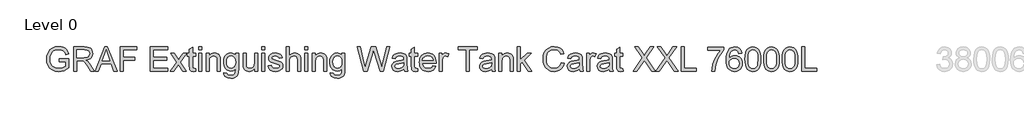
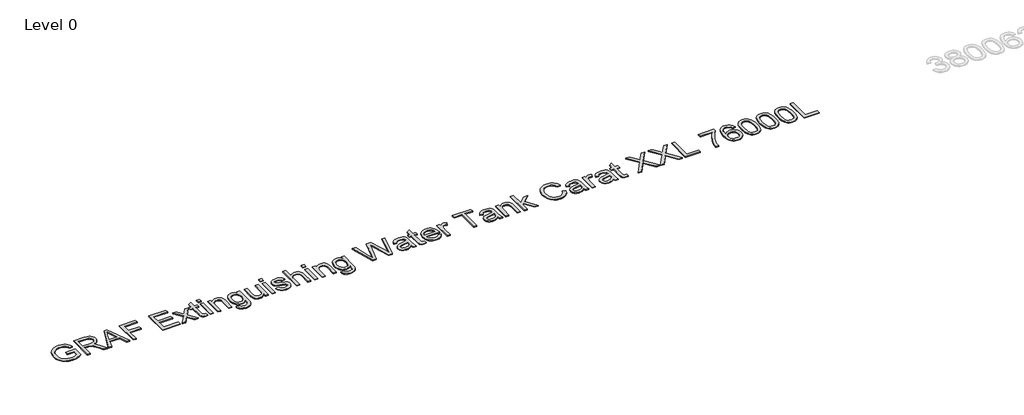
# One storey, part 32 of 37: 1 proxy.
"""IFC4 building model written with IfcOpenShell, lengths in millimetres."""

from ifc_helpers import new_model, si_unit, origin, origin_with_axes, place, context, project, spatial, polyline, outline, extrude, element, save

model = new_model("IFC4")

# Units and contexts
model_context = context("Model", 3, world=origin())
ifc_project = project(units=[si_unit("LENGTHUNIT", "METRE", prefix="MILLI")], contexts=[model_context])

# Site, building, storey
site = spatial("IfcSite", under=ifc_project)
building = spatial("IfcBuilding", under=site)
storey = spatial("IfcBuildingStorey", under=building, Name="Level 0", Elevation=0.0)

# Proxy
placement = place(None, origin())
element("IfcBuildingElementProxy", 1, Name="300mm Arial", ObjectType="300mm Arial", at=placement, inside=storey, context=model_context, shape_type="SweptSolid", body=[
    extrude(outline(polyline([(16759.0059613, -5583.2545597), (16759.0059613, -5545.5834434), (16881.4370893, -5545.5834434), (16881.4370893, -5658.2289103), (16851.6846329, -5678.9222726), (16820.9940775, -5693.7663111), (16789.4389993, -5702.7058436), (16757.0929749, -5705.6856877), (16714.8325307, -5700.949207), (16676.6371825, -5686.739765), (16644.9073605, -5663.5540022), (16622.0434945, -5631.8885595), (16608.2203285, -5593.9047435), (16603.6126065, -5551.7638609), (16608.2019344, -5509.3194757), (16621.9699181, -5469.8365406), (16644.3463404, -5436.717964), (16674.7609844, -5413.3666543), (16711.8067013, -5399.5158972), (16754.0763425, -5394.8989782), (16785.1071888, -5397.5753197), (16813.0110382, -5405.6043443), (16836.5095006, -5418.4066377), (16854.3241862, -5435.4027859), (16867.5035587, -5457.4113262), (16877.0960817, -5485.2507962), (16842.3680214, -5495.0364573), (16834.6149083, -5475.1800266), (16825.1879322, -5460.1980323), (16812.7167326, -5448.9040551), (16795.830949, -5440.1116754), (16775.6986068, -5434.4554897), (16753.4877313, -5432.5700945), (16727.4876713, -5434.6026425), (16705.2584018, -5440.7002866), (16686.8826961, -5450.0996716), (16672.4433278, -5462.0374423), (16653.0559467, -5491.0633317), (16644.2267788, -5519.50061), (16641.2837228, -5550.2187566), (16644.824587, -5586.2436009), (16655.4471796, -5615.8856927), (16672.8296039, -5638.9334997), (16696.6499631, -5655.1754898), (16724.5262213, -5664.804801), (16754.0763425, -5668.0145714), (16780.168373, -5665.5957473), (16805.6166101, -5658.3392749), (16827.7171209, -5648.3420817), (16843.765973, -5637.701095), (16843.765973, -5583.2545597), (16759.0059613, -5583.2545597)])), origin_with_axes(), (0.0, 0.0, 1.0), 10.0),
    extrude(outline(polyline([(16942.6526533, -5700.9767982), (16942.6526533, -5399.6078677), (17072.5149976, -5399.6078677), (17107.4178018, -5401.6404158), (17132.8108566, -5407.7380598), (17151.3705032, -5418.9952489), (17165.7730833, -5436.5064318), (17175.0161185, -5458.2206666), (17178.0971302, -5482.087011), (17172.9927675, -5511.7750881), (17157.6796794, -5536.3863935), (17146.0799003, -5546.4157764), (17131.6980135, -5554.4310054), (17094.5879173, -5564.4190016), (17115.9986494, -5580.532233), (17146.532855, -5619.3069952), (17196.7855355, -5700.9767982), (17153.0075781, -5700.9767982), (17113.7913574, -5638.5104354), (17085.4644438, -5597.1604991), (17065.5620278, -5577.6259652), (17047.6461747, -5570.4522663), (17025.7939842, -5569.1278911), (16980.3237696, -5569.1278911), (16980.3237696, -5700.9767982), (16942.6526533, -5700.9767982)]), holes=[polyline([(16980.3237696, -5531.4567748), (17064.6423229, -5531.4567748), (17088.8581552, -5530.1232026), (17107.6477281, -5526.1224859), (17121.7927908, -5519.1879103), (17132.0750926, -5509.0527613), (17138.3382835, -5496.7930938), (17140.4260139, -5483.4849626), (17136.4436913, -5465.109257), (17124.4967235, -5450.3020067), (17103.941317, -5440.5347397), (17074.1336783, -5437.278984), (16980.3237696, -5437.278984), (16980.3237696, -5531.4567748)])]), origin_with_axes(), (0.0, 0.0, 1.0), 10.0),
    extrude(outline(polyline([(17208.9256414, -5700.9767982), (17329.2230538, -5399.6078677), (17361.3023638, -5399.6078677), (17481.5997762, -5700.9767982), (17441.7949443, -5700.9767982), (17407.2876132, -5606.7990074), (17283.164228, -5606.7990074), (17248.7304732, -5700.9767982), (17208.9256414, -5700.9767982)]), holes=[polyline([(17296.996591, -5569.1278911), (17393.5288265, -5569.1278911), (17366.3791353, -5495.0364573), (17345.2627088, -5437.278984), (17326.500727, -5488.5617342), (17296.996591, -5569.1278911)])]), origin_with_axes(), (0.0, 0.0, 1.0), 10.0),
    extrude(outline(polyline([(17521.8460665, -5700.9767982), (17521.8460665, -5399.6078677), (17724.3283166, -5399.6078677), (17724.3283166, -5437.278984), (17559.5171828, -5437.278984), (17559.5171828, -5526.7478853), (17700.7838689, -5526.7478853), (17700.7838689, -5564.4190016), (17559.5171828, -5564.4190016), (17559.5171828, -5700.9767982), (17521.8460665, -5700.9767982)])), origin_with_axes(), (0.0, 0.0, 1.0), 10.0),
    extrude(outline(polyline([(17893.84834, -5700.9767982), (17893.84834, -5399.6078677), (18110.4572587, -5399.6078677), (18110.4572587, -5437.278984), (17931.5194563, -5437.278984), (17931.5194563, -5526.7478853), (18101.0394797, -5526.7478853), (18101.0394797, -5564.4190016), (17931.5194563, -5564.4190016), (17931.5194563, -5663.3056819), (18115.1661483, -5663.3056819), (18115.1661483, -5700.9767982), (17893.84834, -5700.9767982)])), origin_with_axes(), (0.0, 0.0, 1.0), 10.0),
    extrude(outline(polyline([(18143.4194855, -5700.9767982), (18223.9120661, -5589.7292828), (18148.1283751, -5479.6589899), (18193.4514369, -5479.6589899), (18230.0189072, -5532.6339972), (18247.0886318, -5557.6499729), (18261.877488, -5537.1957339), (18303.5217298, -5479.6589899), (18348.8447916, -5479.6589899), (18269.2351279, -5589.7292828), (18345.9017357, -5700.9767982), (18300.5786739, -5700.9767982), (18254.4462717, -5634.0958515), (18245.9849858, -5621.8821692), (18188.7425473, -5700.9767982), (18143.4194855, -5700.9767982)])), origin_with_axes(), (0.0, 0.0, 1.0), 10.0),
    extrude(outline(polyline([(18458.9150846, -5669.5596758), (18463.6239741, -5702.0804442), (18435.4442133, -5705.6856877), (18417.3628132, -5704.1221892), (18403.8799381, -5699.4316938), (18394.3517944, -5692.2028126), (18388.1345887, -5683.0241568), (18384.7132861, -5667.2604133), (18383.572852, -5640.276269), (18383.572852, -5517.3301062), (18355.3195147, -5517.3301062), (18355.3195147, -5479.6589899), (18383.572852, -5479.6589899), (18383.572852, -5425.8746422), (18421.2439683, -5403.7281461), (18421.2439683, -5479.6589899), (18458.9150846, -5479.6589899), (18458.9150846, -5517.3301062), (18421.2439683, -5517.3301062), (18421.2439683, -5639.172623), (18423.230531, -5658.5967923), (18429.668466, -5665.4761856), (18442.5075476, -5668.0145714), (18458.9150846, -5669.5596758)])), origin_with_axes(), (0.0, 0.0, 1.0), 10.0),
    extrude(outline(polyline([(18496.5862009, -5437.278984), (18496.5862009, -5399.6078677), (18534.2573172, -5399.6078677), (18534.2573172, -5437.278984), (18496.5862009, -5437.278984)])), origin_with_axes(), (0.0, 0.0, 1.0), 10.0),
    extrude(outline(polyline([(18496.5862009, -5700.9767982), (18496.5862009, -5479.6589899), (18534.2573172, -5479.6589899), (18534.2573172, -5700.9767982), (18496.5862009, -5700.9767982)])), origin_with_axes(), (0.0, 0.0, 1.0), 10.0),
    extrude(outline(polyline([(18590.7639916, -5700.9767982), (18590.7639916, -5479.6589899), (18628.435108, -5479.6589899), (18628.435108, -5510.5610775), (18641.5225099, -5494.981275), (18657.2402682, -5483.8528446), (18675.5883827, -5477.1757864), (18696.5668535, -5474.9501003), (18715.1356972, -5476.7435251), (18732.1410424, -5482.1237992), (18746.3228933, -5490.4195382), (18756.4212541, -5500.9593574), (18767.7152313, -5528.6608716), (18769.7017941, -5565.0811892), (18769.7017941, -5700.9767982), (18732.0306778, -5700.9767982), (18732.0306778, -5570.1579607), (18727.6896703, -5536.8278519), (18721.6839967, -5526.9042351), (18712.3489911, -5519.2063044), (18700.3836292, -5514.2674886), (18686.4868868, -5512.6212166), (18664.4231641, -5516.3184307), (18645.6151971, -5527.4100729), (18638.0989081, -5536.4645685), (18632.7301302, -5548.8391991), (18628.435108, -5583.5488653), (18628.435108, -5700.9767982), (18590.7639916, -5700.9767982)])), origin_with_axes(), (0.0, 0.0, 1.0), 10.0),
    extrude(outline(polyline([(18812.0817999, -5719.8123563), (18849.7529163, -5724.5212459), (18853.9099828, -5736.2934697), (18861.9665985, -5744.3868736), (18877.8039184, -5750.6776557), (18898.5340688, -5752.7745831), (18920.6437767, -5750.4017442), (18937.0881019, -5743.2832276), (18948.4924438, -5731.8788858), (18955.4822017, -5716.6485712), (18958.0573756, -5672.7234609), (18945.5217966, -5685.084296), (18931.5330838, -5693.9134639), (18916.091237, -5699.2109646), (18899.1962564, -5700.9767982), (18878.5419816, -5698.9212575), (18860.3571148, -5692.7546356), (18844.6416558, -5682.4769323), (18831.3956047, -5668.0881478), (18820.8856759, -5650.8252852), (18813.378584, -5631.9253477), (18808.8743288, -5611.3883353), (18807.3729104, -5589.214248), (18810.067646, -5558.7996041), (18818.1518529, -5530.8313754), (18831.3404224, -5507.1305779), (18849.3482461, -5489.5182274), (18871.5591215, -5478.5921321), (18897.3568464, -5474.9501003), (18914.9737955, -5477.0102395), (18930.9628667, -5483.190657), (18945.3240601, -5493.4913529), (18958.0573756, -5507.9123271), (18958.0573756, -5479.6589899), (18995.7284919, -5479.6589899), (18995.7284919, -5670.7368982), (18993.153318, -5714.8551464), (18985.4277961, -5743.908627), (18972.1196649, -5763.1764465), (18952.7966631, -5777.9377116), (18927.881855, -5787.3187024), (18897.7983048, -5790.4456994), (18862.7483477, -5786.0403125), (18835.148001, -5772.8241518), (18824.7530354, -5762.9028343), (18817.44368, -5750.7604292), (18813.2199349, -5736.3969365), (18812.0817999, -5719.8123563)]), holes=[polyline([(18845.0440267, -5586.6390741), (18849.0631375, -5621.1923905), (18861.1204699, -5644.9483703), (18879.2478552, -5658.716354), (18901.4771248, -5663.3056819), (18923.5408474, -5658.7439451), (18941.7602032, -5645.0587349), (18953.9830825, -5621.6062577), (18958.0573756, -5587.7427201), (18953.8635209, -5555.0839959), (18941.2819567, -5531.5671394), (18922.7958864, -5517.3576973), (18900.8885136, -5512.6212166), (18879.3766139, -5517.2841209), (18861.3411991, -5531.2728338), (18849.1183198, -5554.4402024), (18845.0440267, -5586.6390741)])]), origin_with_axes(), (0.0, 0.0, 1.0), 10.0),
    extrude(outline(polyline([(19193.5018525, -5700.9767982), (19193.5018525, -5662.9377999), (19179.8718246, -5681.6400008), (19163.9977165, -5694.9987158), (19145.8795283, -5703.0139447), (19125.5172598, -5705.6856877), (19107.1691453, -5703.8094895), (19090.0902237, -5698.180895), (19075.76122, -5689.7196091), (19065.6628592, -5679.3453369), (19054.4424584, -5651.6070344), (19052.2351664, -5616.5846685), (19052.2351664, -5479.6589899), (19089.9062827, -5479.6589899), (19089.9062827, -5598.8527563), (19092.1871511, -5637.2596366), (19097.6777899, -5650.0711271), (19107.0863719, -5659.8108029), (19119.7874978, -5665.9636293), (19135.1557681, -5668.0145714), (19151.4069552, -5665.917644), (19166.6096787, -5659.6268619), (19179.1452577, -5649.7216392), (19187.3950114, -5636.78139), (19191.9751423, -5619.0586749), (19193.5018525, -5594.8060544), (19193.5018525, -5479.6589899), (19231.1729689, -5479.6589899), (19231.1729689, -5700.9767982), (19193.5018525, -5700.9767982)])), origin_with_axes(), (0.0, 0.0, 1.0), 10.0),
    extrude(outline(polyline([(19282.9707538, -5437.278984), (19282.9707538, -5399.6078677), (19320.6418701, -5399.6078677), (19320.6418701, -5437.278984), (19282.9707538, -5437.278984)])), origin_with_axes(), (0.0, 0.0, 1.0), 10.0),
    extrude(outline(polyline([(19282.9707538, -5700.9767982), (19282.9707538, -5479.6589899), (19320.6418701, -5479.6589899), (19320.6418701, -5700.9767982), (19282.9707538, -5700.9767982)])), origin_with_axes(), (0.0, 0.0, 1.0), 10.0),
    extrude(outline(polyline([(19363.0218759, -5635.0523446), (19400.6929922, -5630.3434551), (19406.6342865, -5646.4566865), (19418.1305988, -5658.3024867), (19435.2555057, -5665.5865502), (19458.0825835, -5668.0145714), (19480.6337498, -5665.7888853), (19496.4894638, -5659.1118271), (19505.8704547, -5649.4365307), (19508.9974516, -5638.2161298), (19505.8520606, -5628.6144097), (19496.4158874, -5621.293558), (19457.6411251, -5610.5514038), (19400.9137214, -5592.1205158), (19386.5571266, -5582.8590866), (19376.1552632, -5570.5994191), (19369.8368899, -5556.1232626), (19367.7307655, -5540.2123663), (19369.4230226, -5525.6166481), (19374.4997942, -5512.1429701), (19382.5012276, -5500.324761), (19392.9674703, -5490.6954497), (19416.9165882, -5479.5486253), (19449.326992, -5474.9501003), (19473.846327, -5476.7987074), (19495.1650886, -5482.3445284), (19512.3083896, -5491.0449376), (19524.3013426, -5502.357309), (19532.2475937, -5517.118574), (19537.2507888, -5536.1656643), (19499.5796725, -5540.8745539), (19494.8247977, -5529.0195566), (19485.4162157, -5520.0892211), (19471.261956, -5514.4882178), (19452.270048, -5512.6212166), (19430.6385866, -5514.4054443), (19416.2176124, -5519.7581274), (19408.1058144, -5527.4836493), (19405.4018818, -5536.3863935), (19409.8900421, -5547.349277), (19423.9431343, -5555.6634101), (19456.3903263, -5563.6832376), (19511.6829902, -5581.4151497), (19526.2879054, -5589.8948297), (19537.3611534, -5601.5015067), (19544.3417143, -5616.2719688), (19546.6685679, -5634.2430043), (19543.9370441, -5652.821045), (19535.7424727, -5670.2954398), (19522.3975533, -5685.2958281), (19504.2149857, -5696.4518496), (19482.2524306, -5703.3772282), (19457.5675487, -5705.6856877), (19419.5837327, -5701.2343156), (19391.8638243, -5687.8801992), (19373.35936, -5665.7704912), (19363.0218759, -5635.0523446)])), origin_with_axes(), (0.0, 0.0, 1.0), 10.0),
    extrude(outline(polyline([(19589.0485738, -5700.9767982), (19589.0485738, -5399.6078677), (19626.7196901, -5399.6078677), (19626.7196901, -5510.4139247), (19640.5566516, -5494.8985015), (19656.0950674, -5483.8160564), (19673.3349374, -5477.1665894), (19692.2762616, -5474.9501003), (19715.029763, -5477.3689245), (19734.5826911, -5484.6253968), (19749.9785526, -5496.1493003), (19760.2608543, -5511.3704179), (19766.0549957, -5532.2845093), (19767.9863762, -5560.8873344), (19767.9863762, -5700.9767982), (19730.3152599, -5700.9767982), (19730.3152599, -5564.7868836), (19727.3170216, -5541.2056477), (19718.3223069, -5525.0556281), (19703.8277563, -5515.7298195), (19684.3300105, -5512.6212166), (19668.4099172, -5514.718144), (19653.4647111, -5521.0089261), (19641.085482, -5530.8865577), (19632.8633194, -5543.7440334), (19628.2555974, -5560.8321521), (19626.7196901, -5583.4017125), (19626.7196901, -5700.9767982), (19589.0485738, -5700.9767982)])), origin_with_axes(), (0.0, 0.0, 1.0), 10.0),
    extrude(outline(polyline([(19819.7841611, -5437.278984), (19819.7841611, -5399.6078677), (19857.4552774, -5399.6078677), (19857.4552774, -5437.278984), (19819.7841611, -5437.278984)])), origin_with_axes(), (0.0, 0.0, 1.0), 10.0),
    extrude(outline(polyline([(19819.7841611, -5700.9767982), (19819.7841611, -5479.6589899), (19857.4552774, -5479.6589899), (19857.4552774, -5700.9767982), (19819.7841611, -5700.9767982)])), origin_with_axes(), (0.0, 0.0, 1.0), 10.0),
    extrude(outline(polyline([(19913.9619519, -5700.9767982), (19913.9619519, -5479.6589899), (19951.6330682, -5479.6589899), (19951.6330682, -5510.5610775), (19964.7204702, -5494.981275), (19980.4382284, -5483.8528446), (19998.7863429, -5477.1757864), (20019.7648137, -5474.9501003), (20038.3336574, -5476.7435251), (20055.3390026, -5482.1237992), (20069.5208536, -5490.4195382), (20079.6192143, -5500.9593574), (20090.9131916, -5528.6608716), (20092.8997544, -5565.0811892), (20092.8997544, -5700.9767982), (20055.228638, -5700.9767982), (20055.228638, -5570.1579607), (20050.8876305, -5536.8278519), (20044.8819569, -5526.9042351), (20035.5469513, -5519.2063044), (20023.5815894, -5514.2674886), (20009.684847, -5512.6212166), (19987.6211244, -5516.3184307), (19968.8131574, -5527.4100729), (19961.2968684, -5536.4645685), (19955.9280905, -5548.8391991), (19951.6330682, -5583.5488653), (19951.6330682, -5700.9767982), (19913.9619519, -5700.9767982)])), origin_with_axes(), (0.0, 0.0, 1.0), 10.0),
    extrude(outline(polyline([(20135.2797602, -5719.8123563), (20172.9508765, -5724.5212459), (20177.1079431, -5736.2934697), (20185.1645587, -5744.3868736), (20201.0018786, -5750.6776557), (20221.7320291, -5752.7745831), (20243.841737, -5750.4017442), (20260.2860622, -5743.2832276), (20271.690404, -5731.8788858), (20278.6801619, -5716.6485712), (20281.2553359, -5672.7234609), (20268.7197569, -5685.084296), (20254.731044, -5693.9134639), (20239.2891973, -5699.2109646), (20222.3942167, -5700.9767982), (20201.7399419, -5698.9212575), (20183.555075, -5692.7546356), (20167.839616, -5682.4769323), (20154.5935649, -5668.0881478), (20144.0836362, -5650.8252852), (20136.5765442, -5631.9253477), (20132.0722891, -5611.3883353), (20130.5708707, -5589.214248), (20133.2656063, -5558.7996041), (20141.3498131, -5530.8313754), (20154.5383826, -5507.1305779), (20172.5462063, -5489.5182274), (20194.7570818, -5478.5921321), (20220.5548067, -5474.9501003), (20238.1717557, -5477.0102395), (20254.1608269, -5483.190657), (20268.5220203, -5493.4913529), (20281.2553359, -5507.9123271), (20281.2553359, -5479.6589899), (20318.9264522, -5479.6589899), (20318.9264522, -5670.7368982), (20316.3512782, -5714.8551464), (20308.6257563, -5743.908627), (20295.3176252, -5763.1764465), (20275.9946234, -5777.9377116), (20251.0798152, -5787.3187024), (20220.9962651, -5790.4456994), (20185.946308, -5786.0403125), (20158.3459613, -5772.8241518), (20147.9509957, -5762.9028343), (20140.6416403, -5750.7604292), (20136.4178951, -5736.3969365), (20135.2797602, -5719.8123563)]), holes=[polyline([(20168.241987, -5586.6390741), (20172.2610978, -5621.1923905), (20184.3184302, -5644.9483703), (20202.4458155, -5658.716354), (20224.675085, -5663.3056819), (20246.7388077, -5658.7439451), (20264.9581635, -5645.0587349), (20277.1810428, -5621.6062577), (20281.2553359, -5587.7427201), (20277.0614811, -5555.0839959), (20264.4799169, -5531.5671394), (20245.9938466, -5517.3576973), (20224.0864738, -5512.6212166), (20202.5745742, -5517.2841209), (20184.5391594, -5531.2728338), (20172.3162801, -5554.4402024), (20168.241987, -5586.6390741)])]), origin_with_axes(), (0.0, 0.0, 1.0), 10.0),
    extrude(outline(polyline([(20551.7957551, -5700.9767982), (20469.6109174, -5399.6078677), (20508.4592561, -5399.6078677), (20556.1367627, -5597.6755339), (20570.8520425, -5658.8175215), (20586.5973919, -5604.7388682), (20646.3414279, -5399.6078677), (20702.3330676, -5399.6078677), (20745.743143, -5548.3057702), (20764.3395779, -5603.4880695), (20778.0431822, -5658.8175215), (20792.3170036, -5599.4413675), (20840.4359686, -5399.6078677), (20879.2843072, -5399.6078677), (20797.0258931, -5700.9767982), (20756.7796029, -5700.9767982), (20684.527579, -5468.4753772), (20674.4476123, -5436.0281853), (20663.1168469, -5475.0972531), (20597.2659697, -5700.9767982), (20551.7957551, -5700.9767982)])), origin_with_axes(), (0.0, 0.0, 1.0), 10.0),
    extrude(outline(polyline([(21053.5132202, -5672.7234609), (21035.5145935, -5688.1561106), (21016.982538, -5698.2544714), (20997.4939893, -5703.8278836), (20976.6258832, -5705.6856877), (20945.1443814, -5701.2159215), (20921.9218305, -5687.8066228), (20907.6020238, -5667.4443543), (20902.8287549, -5642.115679), (20904.6313767, -5626.4990883), (20910.039242, -5612.3172373), (20918.3809663, -5600.1771315), (20928.9851648, -5590.685776), (20955.3623038, -5578.324941), (20987.9566486, -5572.6595583), (21026.4738935, -5566.6998699), (21053.292491, -5559.710112), (21053.5132202, -5551.3224025), (21050.9196521, -5534.5101954), (21043.1389479, -5523.5105237), (21025.7381295, -5515.3435434), (21001.494706, -5512.6212166), (20979.0539043, -5514.4330355), (20963.3821313, -5519.868492), (20952.6951594, -5529.9208675), (20945.2087608, -5545.5834434), (20907.5376445, -5540.8745539), (20914.0767469, -5520.2731621), (20923.8348169, -5504.0863544), (20937.7223622, -5491.7071252), (20956.6498908, -5482.5284694), (20979.7988654, -5476.8446926), (21006.3507484, -5474.9501003), (21031.8173795, -5476.6239634), (21052.004904, -5481.6455527), (21067.2260215, -5489.1963306), (21077.7934318, -5498.4577598), (21084.8015838, -5509.9080869), (21089.3449265, -5524.0255585), (21091.1843365, -5556.9877853), (21091.1843365, -5603.8559515), (21093.0973228, -5669.3021584), (21100.6021155, -5700.9767982), (21062.9309992, -5700.9767982), (21053.5132202, -5672.7234609)]), holes=[polyline([(21053.5132202, -5597.3812283), (20992.7391146, -5608.932723), (20960.3287108, -5615.0395641), (20945.6502192, -5624.972378), (20940.4998712, -5639.4669286), (20943.3049715, -5650.6689353), (20951.7202721, -5659.8475911), (20965.5618322, -5665.9728263), (20984.6457107, -5668.0145714), (21004.8792204, -5665.7612942), (21022.7582854, -5659.0014625), (21037.252836, -5649.0410575), (21047.3328026, -5637.1860602), (21051.8025689, -5624.972378), (21053.292491, -5608.0498062), (21053.5132202, -5597.3812283)])]), origin_with_axes(), (0.0, 0.0, 1.0), 10.0),
    extrude(outline(polyline([(21223.0332435, -5669.5596758), (21227.7421331, -5702.0804442), (21199.5623722, -5705.6856877), (21181.4809722, -5704.1221892), (21167.9980971, -5699.4316938), (21158.4699534, -5692.2028126), (21152.2527477, -5683.0241568), (21148.8314451, -5667.2604133), (21147.6910109, -5640.276269), (21147.6910109, -5517.3301062), (21119.4376737, -5517.3301062), (21119.4376737, -5479.6589899), (21147.6910109, -5479.6589899), (21147.6910109, -5425.8746422), (21185.3621272, -5403.7281461), (21185.3621272, -5479.6589899), (21223.0332435, -5479.6589899), (21223.0332435, -5517.3301062), (21185.3621272, -5517.3301062), (21185.3621272, -5639.172623), (21187.34869, -5658.5967923), (21193.7866249, -5665.4761856), (21206.6257066, -5668.0145714), (21223.0332435, -5669.5596758)])), origin_with_axes(), (0.0, 0.0, 1.0), 10.0),
    extrude(outline(polyline([(21415.6562562, -5635.0523446), (21452.5916085, -5639.7612342), (21439.2834774, -5667.5915071), (21418.0474892, -5688.3952339), (21389.3618906, -5701.3630743), (21353.7049282, -5705.6856877), (21330.330626, -5703.8209859), (21309.5039065, -5698.2268803), (21291.2247699, -5688.9033709), (21275.493216, -5675.8504579), (21262.8426739, -5659.4314246), (21253.8065724, -5640.0095545), (21248.3849115, -5617.5848477), (21246.5776912, -5592.157304), (21248.4033056, -5565.8675369), (21253.8801488, -5542.6955698), (21263.0082208, -5522.6414025), (21275.7875216, -5505.7050351), (21291.4776887, -5492.2497512), (21309.3383596, -5482.638834), (21329.3695342, -5476.8722838), (21351.5712127, -5474.9501003), (21373.0578204, -5476.8676852), (21392.4888876, -5482.6204399), (21409.8644141, -5492.2083644), (21425.1843999, -5505.6314587), (21437.6900885, -5522.5310379), (21446.6227232, -5542.548417), (21451.982304, -5565.6835959), (21453.7688309, -5591.9365748), (21453.5481017, -5602.0901179), (21284.2488075, -5602.0901179), (21290.7695159, -5630.2882728), (21305.9170571, -5651.0184232), (21327.7784446, -5663.7655344), (21354.4406922, -5668.0145714), (21374.490261, -5666.0464027), (21391.3760445, -5660.1418967), (21405.098043, -5649.9331713), (21415.6562562, -5635.0523446)]), holes=[polyline([(21284.2488075, -5564.4190016), (21416.0977146, -5564.4190016), (21411.002549, -5544.5165856), (21401.0145528, -5530.2795524), (21379.0519977, -5517.0358006), (21351.4240599, -5512.6212166), (21326.0310051, -5516.1436868), (21305.0341403, -5526.7110971), (21290.4384221, -5543.1830134), (21284.2488075, -5564.4190016)])]), origin_with_axes(), (0.0, 0.0, 1.0), 10.0),
    extrude(outline(polyline([(21491.4399472, -5700.9767982), (21491.4399472, -5479.6589899), (21524.402174, -5479.6589899), (21524.402174, -5512.4004875), (21536.579068, -5493.4177765), (21547.7994689, -5482.2341638), (21559.0566579, -5476.7711162), (21571.3439166, -5474.9501003), (21590.1058983, -5477.8563681), (21609.1621857, -5486.5751714), (21596.5806214, -5520.3467385), (21583.3368696, -5514.5525971), (21570.0931178, -5512.6212166), (21558.8451258, -5514.4790207), (21548.7927503, -5520.052433), (21540.6717552, -5528.918389), (21535.2179046, -5540.6538247), (21530.6377738, -5561.6966748), (21529.1110635, -5584.6525113), (21529.1110635, -5700.9767982), (21491.4399472, -5700.9767982)])), origin_with_axes(), (0.0, 0.0, 1.0), 10.0),
    extrude(outline(polyline([(21830.479994, -5700.9767982), (21830.479994, -5437.278984), (21731.5933137, -5437.278984), (21731.5933137, -5399.6078677), (21967.0377906, -5399.6078677), (21967.0377906, -5437.278984), (21868.1511103, -5437.278984), (21868.1511103, -5700.9767982), (21830.479994, -5700.9767982)])), origin_with_axes(), (0.0, 0.0, 1.0), 10.0),
    extrude(outline(polyline([(22145.975593, -5672.7234609), (22127.9769664, -5688.1561106), (22109.4449109, -5698.2544714), (22089.9563622, -5703.8278836), (22069.088256, -5705.6856877), (22037.6067543, -5701.2159215), (22014.3842034, -5687.8066228), (22000.0643967, -5667.4443543), (21995.2911278, -5642.115679), (21997.0937496, -5626.4990883), (22002.5016149, -5612.3172373), (22010.8433392, -5600.1771315), (22021.4475377, -5590.685776), (22047.8246767, -5578.324941), (22080.4190215, -5572.6595583), (22118.9362664, -5566.6998699), (22145.7548638, -5559.710112), (22145.975593, -5551.3224025), (22143.382025, -5534.5101954), (22135.6013208, -5523.5105237), (22118.2005024, -5515.3435434), (22093.9570789, -5512.6212166), (22071.5162772, -5514.4330355), (22055.8445042, -5519.868492), (22045.1575323, -5529.9208675), (22037.6711337, -5545.5834434), (22000.0000174, -5540.8745539), (22006.5391198, -5520.2731621), (22016.2971897, -5504.0863544), (22030.1847351, -5491.7071252), (22049.1122637, -5482.5284694), (22072.2612383, -5476.8446926), (22098.8131213, -5474.9501003), (22124.2797524, -5476.6239634), (22144.4672769, -5481.6455527), (22159.6883944, -5489.1963306), (22170.2558047, -5498.4577598), (22177.2639567, -5509.9080869), (22181.8072994, -5524.0255585), (22183.6467093, -5556.9877853), (22183.6467093, -5603.8559515), (22185.5596957, -5669.3021584), (22193.0644884, -5700.9767982), (22155.3933721, -5700.9767982), (22145.975593, -5672.7234609)]), holes=[polyline([(22145.975593, -5597.3812283), (22085.2014874, -5608.932723), (22052.7910837, -5615.0395641), (22038.1125921, -5624.972378), (22032.9622441, -5639.4669286), (22035.7673443, -5650.6689353), (22044.182645, -5659.8475911), (22058.024205, -5665.9728263), (22077.1080835, -5668.0145714), (22097.3415933, -5665.7612942), (22115.2206582, -5659.0014625), (22129.7152089, -5649.0410575), (22139.7951755, -5637.1860602), (22144.2649418, -5624.972378), (22145.7548638, -5608.0498062), (22145.975593, -5597.3812283)])]), origin_with_axes(), (0.0, 0.0, 1.0), 10.0),
    extrude(outline(polyline([(22235.4444943, -5700.9767982), (22235.4444943, -5479.6589899), (22273.1156106, -5479.6589899), (22273.1156106, -5510.5610775), (22286.2030125, -5494.981275), (22301.9207708, -5483.8528446), (22320.2688853, -5477.1757864), (22341.2473561, -5474.9501003), (22359.8161998, -5476.7435251), (22376.821545, -5482.1237992), (22391.0033959, -5490.4195382), (22401.1017567, -5500.9593574), (22412.3957339, -5528.6608716), (22414.3822967, -5565.0811892), (22414.3822967, -5700.9767982), (22376.7111804, -5700.9767982), (22376.7111804, -5570.1579607), (22372.3701729, -5536.8278519), (22366.3644993, -5526.9042351), (22357.0294937, -5519.2063044), (22345.0641318, -5514.2674886), (22331.1673894, -5512.6212166), (22309.1036667, -5516.3184307), (22290.2956997, -5527.4100729), (22282.7794107, -5536.4645685), (22277.4106329, -5548.8391991), (22273.1156106, -5583.5488653), (22273.1156106, -5700.9767982), (22235.4444943, -5700.9767982)])), origin_with_axes(), (0.0, 0.0, 1.0), 10.0),
    extrude(outline(polyline([(22466.1800816, -5700.9767982), (22466.1800816, -5399.6078677), (22503.8511979, -5399.6078677), (22503.8511979, -5561.549522), (22588.316904, -5479.6589899), (22640.4089946, -5479.6589899), (22554.9132189, -5562.5795916), (22645.1178841, -5700.9767982), (22601.1191975, -5700.9767982), (22527.9106804, -5588.7727896), (22503.8511979, -5612.0965081), (22503.8511979, -5700.9767982), (22466.1800816, -5700.9767982)])), origin_with_axes(), (0.0, 0.0, 1.0), 10.0),
    extrude(outline(polyline([(23012.4112681, -5593.8495612), (23050.0823844, -5603.5616459), (23042.6281755, -5626.9888312), (23032.6999601, -5647.4591649), (23020.2977383, -5664.9726472), (23005.4215102, -5679.5292779), (22988.4069679, -5690.9727072), (22969.5898038, -5699.1465853), (22948.970018, -5704.0509121), (22926.5476104, -5705.6856877), (22882.8524264, -5700.7376749), (22848.1519572, -5685.8936364), (22821.554089, -5661.668607), (22802.1667078, -5628.5776215), (22790.3301046, -5589.6741005), (22786.3845702, -5548.0114646), (22790.8451394, -5504.0679603), (22804.226847, -5466.1209325), (22825.8307172, -5435.3751947), (22854.9577741, -5413.0355606), (22889.5018935, -5399.4331238), (22927.3569508, -5394.8989782), (22968.6609018, -5400.766696), (22986.629638, -5408.1013433), (23002.809548, -5418.3698495), (23016.9339174, -5431.3009016), (23028.7360316, -5446.6231867), (23045.3734948, -5484.4414558), (23007.7023785, -5493.4177765), (22994.6425677, -5465.9461885), (22976.8002909, -5447.1014333), (22953.954819, -5436.2029292), (22925.8854228, -5432.5700945), (22893.5302013, -5436.5984023), (22866.9507272, -5448.6833259), (22846.7815968, -5467.5556722), (22833.6574066, -5491.9462485), (22826.4561166, -5519.5190041), (22824.0556865, -5547.9378882), (22826.897575, -5582.7395249), (22835.4232402, -5612.8322721), (22849.954579, -5637.0664986), (22870.8134881, -5654.292573), (22895.8202668, -5664.5840718), (22922.7952141, -5668.0145714), (22954.2399276, -5663.3424701), (22980.4423227, -5649.3261661), (23000.225177, -5626.1128122), (23012.4112681, -5593.8495612)])), origin_with_axes(), (0.0, 0.0, 1.0), 10.0),
    extrude(outline(polyline([(23238.4379659, -5672.7234609), (23220.4393393, -5688.1561106), (23201.9072838, -5698.2544714), (23182.4187351, -5703.8278836), (23161.5506289, -5705.6856877), (23130.0691272, -5701.2159215), (23106.8465762, -5687.8066228), (23092.5267696, -5667.4443543), (23087.7535007, -5642.115679), (23089.5561225, -5626.4990883), (23094.9639878, -5612.3172373), (23103.305712, -5600.1771315), (23113.9099105, -5590.685776), (23140.2870496, -5578.324941), (23172.8813944, -5572.6595583), (23211.3986393, -5566.6998699), (23238.2172367, -5559.710112), (23238.4379659, -5551.3224025), (23235.8443978, -5534.5101954), (23228.0636936, -5523.5105237), (23210.6628753, -5515.3435434), (23186.4194518, -5512.6212166), (23163.9786501, -5514.4330355), (23148.3068771, -5519.868492), (23137.6199051, -5529.9208675), (23130.1335065, -5545.5834434), (23092.4623902, -5540.8745539), (23099.0014927, -5520.2731621), (23108.7595626, -5504.0863544), (23122.6471079, -5491.7071252), (23141.5746366, -5482.5284694), (23164.7236111, -5476.8446926), (23191.2754941, -5474.9501003), (23216.7421252, -5476.6239634), (23236.9296497, -5481.6455527), (23252.1507673, -5489.1963306), (23262.7181776, -5498.4577598), (23269.7263296, -5509.9080869), (23274.2696722, -5524.0255585), (23276.1090822, -5556.9877853), (23276.1090822, -5603.8559515), (23278.0220686, -5669.3021584), (23285.5268613, -5700.9767982), (23247.855745, -5700.9767982), (23238.4379659, -5672.7234609)]), holes=[polyline([(23238.4379659, -5597.3812283), (23177.6638603, -5608.932723), (23145.2534565, -5615.0395641), (23130.5749649, -5624.972378), (23125.424617, -5639.4669286), (23128.2297172, -5650.6689353), (23136.6450178, -5659.8475911), (23150.4865779, -5665.9728263), (23169.5704564, -5668.0145714), (23189.8039662, -5665.7612942), (23207.6830311, -5659.0014625), (23222.1775817, -5649.0410575), (23232.2575484, -5637.1860602), (23236.7273146, -5624.972378), (23238.2172367, -5608.0498062), (23238.4379659, -5597.3812283)])]), origin_with_axes(), (0.0, 0.0, 1.0), 10.0),
    extrude(outline(polyline([(23327.9068671, -5700.9767982), (23327.9068671, -5479.6589899), (23360.8690939, -5479.6589899), (23360.8690939, -5512.4004875), (23373.0459879, -5493.4177765), (23384.2663888, -5482.2341638), (23395.5235779, -5476.7711162), (23407.8108365, -5474.9501003), (23426.5728182, -5477.8563681), (23445.6291056, -5486.5751714), (23433.0475414, -5520.3467385), (23419.8037895, -5514.5525971), (23406.5600377, -5512.6212166), (23395.3120457, -5514.4790207), (23385.2596702, -5520.052433), (23377.1386751, -5528.918389), (23371.6848246, -5540.6538247), (23367.1046937, -5561.6966748), (23365.5779834, -5584.6525113), (23365.5779834, -5700.9767982), (23327.9068671, -5700.9767982)])), origin_with_axes(), (0.0, 0.0, 1.0), 10.0),
    extrude(outline(polyline([(23610.4402394, -5672.7234609), (23592.4416128, -5688.1561106), (23573.9095573, -5698.2544714), (23554.4210086, -5703.8278836), (23533.5529024, -5705.6856877), (23502.0714007, -5701.2159215), (23478.8488498, -5687.8066228), (23464.5290431, -5667.4443543), (23459.7557742, -5642.115679), (23461.558396, -5626.4990883), (23466.9662613, -5612.3172373), (23475.3079856, -5600.1771315), (23485.9121841, -5590.685776), (23512.2893231, -5578.324941), (23544.8836679, -5572.6595583), (23583.4009128, -5566.6998699), (23610.2195102, -5559.710112), (23610.4402394, -5551.3224025), (23607.8466714, -5534.5101954), (23600.0659672, -5523.5105237), (23582.6651488, -5515.3435434), (23558.4217253, -5512.6212166), (23535.9809236, -5514.4330355), (23520.3091506, -5519.868492), (23509.6221787, -5529.9208675), (23502.1357801, -5545.5834434), (23464.4646638, -5540.8745539), (23471.0037662, -5520.2731621), (23480.7618361, -5504.0863544), (23494.6493815, -5491.7071252), (23513.5769101, -5482.5284694), (23536.7258847, -5476.8446926), (23563.2777677, -5474.9501003), (23588.7443988, -5476.6239634), (23608.9319233, -5481.6455527), (23624.1530408, -5489.1963306), (23634.7204511, -5498.4577598), (23641.7286031, -5509.9080869), (23646.2719458, -5524.0255585), (23648.1113557, -5556.9877853), (23648.1113557, -5603.8559515), (23650.0243421, -5669.3021584), (23657.5291348, -5700.9767982), (23619.8580185, -5700.9767982), (23610.4402394, -5672.7234609)]), holes=[polyline([(23610.4402394, -5597.3812283), (23549.6661338, -5608.932723), (23517.2557301, -5615.0395641), (23502.5772385, -5624.972378), (23497.4268905, -5639.4669286), (23500.2319907, -5650.6689353), (23508.6472914, -5659.8475911), (23522.4888514, -5665.9728263), (23541.5727299, -5668.0145714), (23561.8062397, -5665.7612942), (23579.6853046, -5659.0014625), (23594.1798552, -5649.0410575), (23604.2598219, -5637.1860602), (23608.7295882, -5624.972378), (23610.2195102, -5608.0498062), (23610.4402394, -5597.3812283)])]), origin_with_axes(), (0.0, 0.0, 1.0), 10.0),
    extrude(outline(polyline([(23779.9602628, -5669.5596758), (23784.6691524, -5702.0804442), (23756.4893915, -5705.6856877), (23738.4079915, -5704.1221892), (23724.9251163, -5699.4316938), (23715.3969727, -5692.2028126), (23709.1797669, -5683.0241568), (23705.7584644, -5667.2604133), (23704.6180302, -5640.276269), (23704.6180302, -5517.3301062), (23676.364693, -5517.3301062), (23676.364693, -5479.6589899), (23704.6180302, -5479.6589899), (23704.6180302, -5425.8746422), (23742.2891465, -5403.7281461), (23742.2891465, -5479.6589899), (23779.9602628, -5479.6589899), (23779.9602628, -5517.3301062), (23742.2891465, -5517.3301062), (23742.2891465, -5639.172623), (23744.2757093, -5658.5967923), (23750.7136442, -5665.4761856), (23763.5527258, -5668.0145714), (23779.9602628, -5669.5596758)])), origin_with_axes(), (0.0, 0.0, 1.0), 10.0),
    extrude(outline(polyline([(23907.1002803, -5700.9767982), (24023.2774144, -5536.7542755), (23925.9358385, -5399.6078677), (23971.1117475, -5399.6078677), (24025.9261648, -5476.7895103), (24044.3938409, -5506.8822575), (24066.0253023, -5476.2744755), (24120.2511084, -5399.6078677), (24166.089205, -5399.6078677), (24068.747629, -5537.1957339), (24184.9247631, -5700.9767982), (24139.7488541, -5700.9767982), (24062.3464823, -5591.789422), (24046.2332509, -5569.1278911), (24028.5013388, -5593.996714), (23952.9383769, -5700.9767982), (23907.1002803, -5700.9767982)])), origin_with_axes(), (0.0, 0.0, 1.0), 10.0),
    extrude(outline(polyline([(24189.6336526, -5700.9767982), (24305.8107867, -5536.7542755), (24208.4692108, -5399.6078677), (24253.6451198, -5399.6078677), (24308.4595371, -5476.7895103), (24326.9272132, -5506.8822575), (24348.5586746, -5476.2744755), (24402.7844806, -5399.6078677), (24448.6225772, -5399.6078677), (24351.2810013, -5537.1957339), (24467.4581354, -5700.9767982), (24422.2822264, -5700.9767982), (24344.8798546, -5591.789422), (24328.7666232, -5569.1278911), (24311.0347111, -5593.996714), (24235.4717492, -5700.9767982), (24189.6336526, -5700.9767982)])), origin_with_axes(), (0.0, 0.0, 1.0), 10.0),
    extrude(outline(polyline([(24505.1292517, -5700.9767982), (24505.1292517, -5399.6078677), (24542.800368, -5399.6078677), (24542.800368, -5663.3056819), (24693.4848332, -5663.3056819), (24693.4848332, -5700.9767982), (24505.1292517, -5700.9767982)])), origin_with_axes(), (0.0, 0.0, 1.0), 10.0),
    extrude(outline(polyline([(24839.4604089, -5441.9878736), (24839.4604089, -5404.3167573), (25037.2337695, -5404.3167573), (25037.2337695, -5434.7773865), (25009.0448116, -5470.452743), (24981.1317653, -5515.82179), (24956.5112627, -5566.7458552), (24938.1999364, -5619.0862661), (24929.2236157, -5658.2473044), (24924.2204206, -5700.9767982), (24886.5493043, -5700.9767982), (24890.6235974, -5662.1468536), (24901.5221015, -5615.9960573), (24918.950511, -5567.076949), (24942.6145204, -5519.9420684), (24970.2424582, -5477.3321363), (24999.5626532, -5441.9878736), (24839.4604089, -5441.9878736)])), origin_with_axes(), (0.0, 0.0, 1.0), 10.0),
    extrude(outline(polyline([(25263.2604674, -5479.6589899), (25225.5893511, -5484.3678794), (25219.5192981, -5465.6978682), (25211.3155296, -5452.950757), (25194.227411, -5441.1969273), (25173.5708369, -5437.278984), (25156.059654, -5439.5598524), (25139.5785406, -5446.4024575), (25125.4242808, -5460.8142347), (25113.8635891, -5480.6522713), (25106.0552938, -5508.7124704), (25103.1582231, -5547.7907354), (25118.268976, -5530.1599908), (25136.3779672, -5517.7347764), (25156.4735212, -5510.3679394), (25177.5439625, -5507.9123271), (25195.6437567, -5509.5907887), (25212.3455992, -5514.6261735), (25227.6494902, -5523.0184815), (25241.5554297, -5534.7677128), (25253.1115228, -5549.1748914), (25261.3658751, -5565.5410417), (25266.3184865, -5583.8661635), (25267.9693569, -5604.150257), (25264.860754, -5631.1252043), (25255.5349455, -5656.131983), (25240.7644834, -5677.34038), (25221.3219199, -5692.9201825), (25198.0901719, -5702.4943114), (25171.9521562, -5705.6856877), (25149.4952596, -5703.5703662), (25129.2134654, -5697.2244018), (25111.1067734, -5686.6477945), (25095.1751838, -5671.8405442), (25082.1866501, -5652.1772515), (25072.909126, -5627.0325171), (25067.3426116, -5596.406341), (25065.4871068, -5560.2987232), (25067.5472459, -5519.8179082), (25073.7276635, -5485.2691903), (25084.0283593, -5456.6525696), (25098.4493335, -5433.9680461), (25114.0797198, -5418.9354681), (25132.2025066, -5408.1979123), (25152.8176939, -5401.7553789), (25175.9252817, -5399.6078677), (25208.979479, -5404.9237626), (25235.4485885, -5420.8714471), (25253.9898411, -5446.2001224), (25263.2604674, -5479.6589899)]), holes=[polyline([(25103.1582231, -5603.5616459), (25105.3379239, -5620.2542914), (25111.8770264, -5636.1927788), (25122.0305694, -5649.8963831), (25135.053592, -5659.8843793), (25150.7713503, -5665.9820234), (25169.0091002, -5668.0145714), (25193.868726, -5663.8023226), (25213.412457, -5651.165576), (25226.0767947, -5631.2999483), (25230.2982406, -5605.4010558), (25226.131977, -5580.54143), (25213.6331862, -5561.5863102), (25193.7583614, -5549.5841601), (25167.4639958, -5545.5834434), (25142.6411582, -5549.5841601), (25121.8834166, -5561.5863102), (25107.8395215, -5580.0815775), (25103.1582231, -5603.5616459)])]), origin_with_axes(), (0.0, 0.0, 1.0), 10.0),
    extrude(outline(polyline([(25300.9315837, -5552.7203541), (25303.6998957, -5504.4818275), (25312.0048317, -5466.0105679), (25325.7636183, -5436.717964), (25344.8934821, -5416.0154047), (25369.5323787, -5403.709752), (25399.818264, -5399.6078677), (25423.0316179, -5402.0358889), (25443.8169506, -5409.3199524), (25461.1993749, -5421.1749497), (25474.2040034, -5437.3157722), (25484.0264527, -5457.6044643), (25491.8623392, -5481.9030701), (25496.994293, -5512.7591724), (25498.7049443, -5552.7203541), (25495.9642234, -5600.6829692), (25487.7420608, -5639.0622584), (25474.0660477, -5668.3824534), (25454.9637751, -5689.1677861), (25430.2696961, -5701.5562123), (25399.818264, -5705.6856877), (25379.0697194, -5703.892263), (25360.6756197, -5698.5119888), (25344.6359647, -5689.5448652), (25330.9507545, -5676.9908921), (25317.8173673, -5654.2971715), (25308.4363764, -5626.0208417), (25302.8077818, -5592.1619025), (25300.9315837, -5552.7203541)]), holes=[polyline([(25338.6027, -5552.6467777), (25343.0172839, -5611.9033701), (25348.5355138, -5632.1713688), (25356.2610357, -5646.1991691), (25375.9795107, -5662.5607208), (25399.818264, -5668.0145714), (25423.6570173, -5662.5423267), (25443.3754922, -5646.1255927), (25451.1010141, -5632.0747997), (25456.619244, -5611.8113996), (25461.033828, -5552.6467777), (25456.7663968, -5494.7237576), (25451.4321079, -5474.5224375), (25443.9641034, -5460.1612441), (25424.2824167, -5442.9995491), (25399.3768056, -5437.278984), (25375.7955697, -5442.3189674), (25356.8496469, -5457.4389174), (25348.8666076, -5473.0739022), (25343.1644367, -5494.1535405), (25338.6027, -5552.6467777)])]), origin_with_axes(), (0.0, 0.0, 1.0), 10.0),
    extrude(outline(polyline([(25531.667171, -5552.7203541), (25534.4354831, -5504.4818275), (25542.7404191, -5466.0105679), (25556.4992057, -5436.717964), (25575.6290695, -5416.0154047), (25600.2679661, -5403.709752), (25630.5538514, -5399.6078677), (25653.7672052, -5402.0358889), (25674.552538, -5409.3199524), (25691.9349622, -5421.1749497), (25704.9395908, -5437.3157722), (25714.76204, -5457.6044643), (25722.5979265, -5481.9030701), (25727.7298804, -5512.7591724), (25729.4405317, -5552.7203541), (25726.6998108, -5600.6829692), (25718.4776482, -5639.0622584), (25704.801635, -5668.3824534), (25685.6993624, -5689.1677861), (25661.0052835, -5701.5562123), (25630.5538514, -5705.6856877), (25609.8053068, -5703.892263), (25591.4112071, -5698.5119888), (25575.3715521, -5689.5448652), (25561.6863419, -5676.9908921), (25548.5529546, -5654.2971715), (25539.1719637, -5626.0208417), (25533.5433692, -5592.1619025), (25531.667171, -5552.7203541)]), holes=[polyline([(25569.3382874, -5552.6467777), (25573.7528713, -5611.9033701), (25579.2711012, -5632.1713688), (25586.9966231, -5646.1991691), (25606.7150981, -5662.5607208), (25630.5538514, -5668.0145714), (25654.3926046, -5662.5423267), (25674.1110796, -5646.1255927), (25681.8366015, -5632.0747997), (25687.3548314, -5611.8113996), (25691.7694153, -5552.6467777), (25687.5019842, -5494.7237576), (25682.1676953, -5474.5224375), (25674.6996908, -5460.1612441), (25655.018004, -5442.9995491), (25630.112393, -5437.278984), (25606.5311571, -5442.3189674), (25587.5852343, -5457.4389174), (25579.602195, -5473.0739022), (25573.9000241, -5494.1535405), (25569.3382874, -5552.6467777)])]), origin_with_axes(), (0.0, 0.0, 1.0), 10.0),
    extrude(outline(polyline([(25762.4027584, -5552.7203541), (25765.1710704, -5504.4818275), (25773.4760065, -5466.0105679), (25787.2347931, -5436.717964), (25806.3646568, -5416.0154047), (25831.0035535, -5403.709752), (25861.2894387, -5399.6078677), (25884.5027926, -5402.0358889), (25905.2881253, -5409.3199524), (25922.6705496, -5421.1749497), (25935.6751782, -5437.3157722), (25945.4976274, -5457.6044643), (25953.3335139, -5481.9030701), (25958.4654678, -5512.7591724), (25960.176119, -5552.7203541), (25957.4353982, -5600.6829692), (25949.2132356, -5639.0622584), (25935.5372224, -5668.3824534), (25916.4349498, -5689.1677861), (25891.7408709, -5701.5562123), (25861.2894387, -5705.6856877), (25840.5408942, -5703.892263), (25822.1467944, -5698.5119888), (25806.1071394, -5689.5448652), (25792.4219292, -5676.9908921), (25779.288542, -5654.2971715), (25769.9075511, -5626.0208417), (25764.2789566, -5592.1619025), (25762.4027584, -5552.7203541)]), holes=[polyline([(25800.0738747, -5552.6467777), (25804.4884587, -5611.9033701), (25810.0066886, -5632.1713688), (25817.7322105, -5646.1991691), (25837.4506854, -5662.5607208), (25861.2894387, -5668.0145714), (25885.128192, -5662.5423267), (25904.846667, -5646.1255927), (25912.5721889, -5632.0747997), (25918.0904188, -5611.8113996), (25922.5050027, -5552.6467777), (25918.2375716, -5494.7237576), (25912.9032826, -5474.5224375), (25905.4352781, -5460.1612441), (25885.7535914, -5442.9995491), (25860.8479803, -5437.278984), (25837.2667444, -5442.3189674), (25818.3208217, -5457.4389174), (25810.3377824, -5473.0739022), (25804.6356115, -5494.1535405), (25800.0738747, -5552.6467777)])]), origin_with_axes(), (0.0, 0.0, 1.0), 10.0),
    extrude(outline(polyline([(26007.2650144, -5700.9767982), (26007.2650144, -5399.6078677), (26044.9361307, -5399.6078677), (26044.9361307, -5663.3056819), (26195.6205959, -5663.3056819), (26195.6205959, -5700.9767982), (26007.2650144, -5700.9767982)])), origin_with_axes(), (0.0, 0.0, 1.0), 10.0),
])

save(model, "model.ifc")
